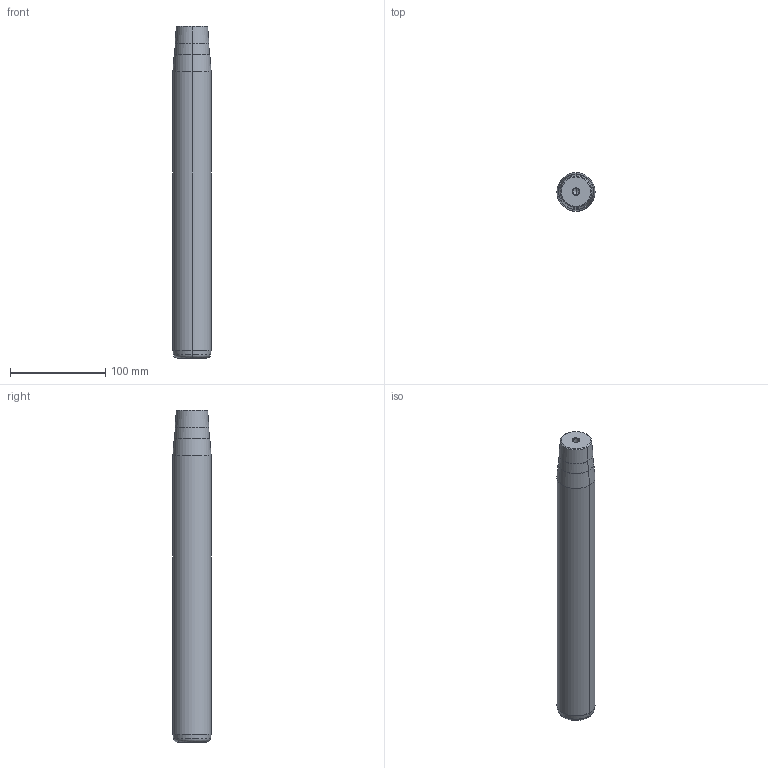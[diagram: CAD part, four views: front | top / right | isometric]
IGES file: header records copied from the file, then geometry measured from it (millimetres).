
Start section: START RECORD GO HERE.
Global section: file name: 722-40x315x348.igs; native system: DASSAULT SYSTEMES CATIA V5 R20 - www.3ds.com; preprocessor: CATIA Version 5 Release 20 ; author: Utente; organization: NB04-ASUS; date: 20210109.094158; units: millimetre
Bounding box: 40 x 40 x 348 mm (x, y, z)
Surface area: 46067.8 mm2 (no closed solid volume)
Topology: 0 solids, 0 shells, 32 faces, 192 edges, 188 vertices
Faces by surface type: revolution 30, plane 2
